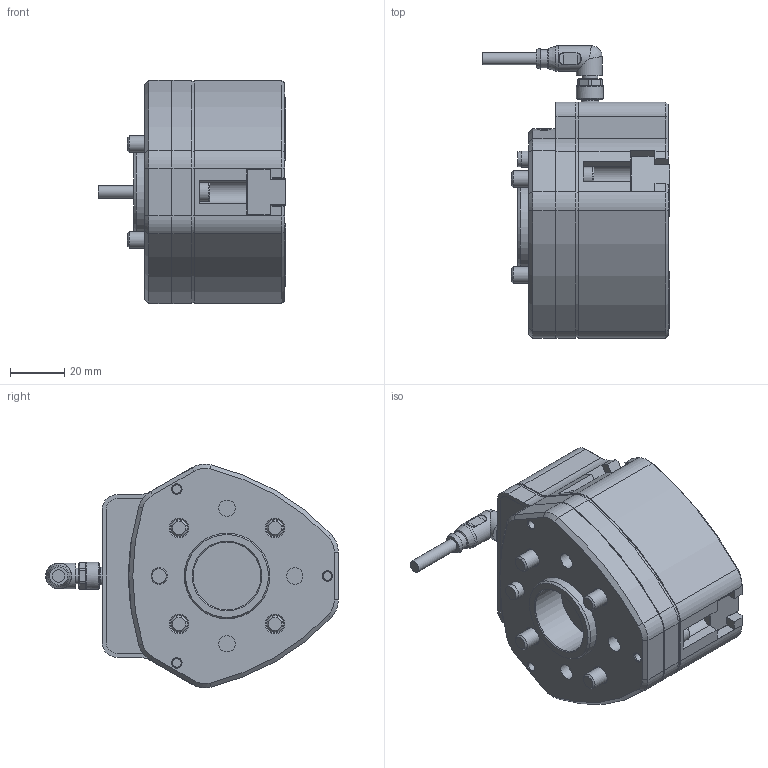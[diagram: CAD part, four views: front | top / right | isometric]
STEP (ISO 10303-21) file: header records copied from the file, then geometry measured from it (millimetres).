
FILE_DESCRIPTION((''),'2;1');
FILE_SCHEMA(('AUTOMOTIVE_DESIGN { 1 0 10303 214 1 1 1 1 }'));
Length unit declared in the file: millimetre
Products named in the file (12): FL-ISO50-ZPG75 Zusammenbau.iam (GRIPKIT-PZ1); FL-ISO50-ZPG75 - CUSTOMER; ZPG75-012 customer.iam; ZPG75-012 Grundkoerper; ZPG75-012 Grundbacke; ZPG75-012 Abdeckung Schraegzug; DIN EN ISO 7046-1 Z M2 x 4 - 4.8 - Z; Sensor-Aktor-Leitung PUR 4x0.25qmm pol. 5 m - Art.-Nr. 4020007; ISO 4762 M6 x 10; Zentrierhülse 6-4-5; ISO 4762 M4 x 16; DIN EN ISO 2338 6 h8 x 8
Assembly tree (21 placements, depth 3):
  FL-ISO50-ZPG75 Zusammenbau.iam (GRIPKIT-PZ1)
    FL-ISO50-ZPG75 - CUSTOMER
    ZPG75-012 customer.iam
      ZPG75-012 Grundkoerper
      ZPG75-012 Grundbacke  x3
      ZPG75-012 Abdeckung Schraegzug
      DIN EN ISO 7046-1 Z M2 x 4 - 4.8 - Z  x3
    Sensor-Aktor-Leitung PUR 4x0.25qmm pol. 5 m - Art.-Nr. 4020007
    ISO 4762 M6 x 10  x4
    Zentrierhülse 6-4-5  x2
    ISO 4762 M4 x 16  x3
    DIN EN ISO 2338 6 h8 x 8
Bounding box: 69.22 x 107.8 x 82.35 mm (x, y, z)
Volume: 261608.1 mm3; surface area: 59085.1 mm2
Topology: 20 solids, 20 shells, 2183 faces, 5593 edges, 3641 vertices
Faces by surface type: bspline 996, plane 848, cylinder 177, cone 135, torus 23, sphere 4
Full cylindrical faces by diameter (mm): 1 x4, 1.2 x4, 1.755 x3, 2 x3, 3.8 x3, 4 x3, 4.2 x2, 4.5 x1, 5.7 x1, 5.8 x2, 6 x7, 6.5 x2, 6.7 x1, 6.9 x1, 7 x4, 8 x1, 9.5 x2, 10 x5, 25 x1, 25.8 x1, 31.5 x1
Entity records: 215720 total; most frequent: CARTESIAN_POINT 174961, ORIENTED_EDGE 9650, DIRECTION 5421, EDGE_CURVE 4825, VERTEX_POINT 3262, VECTOR 2395, LINE 2395, EDGE_LOOP 2291
